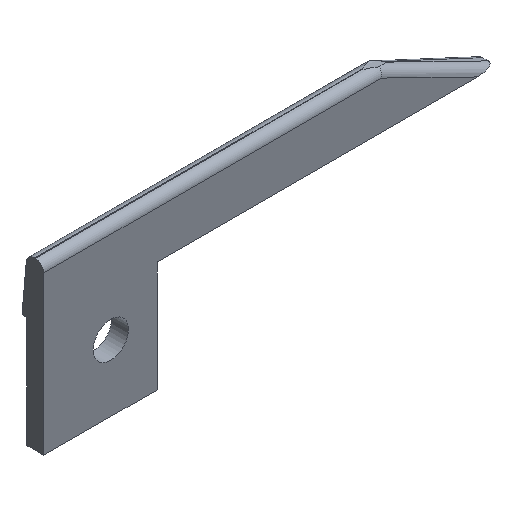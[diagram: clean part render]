
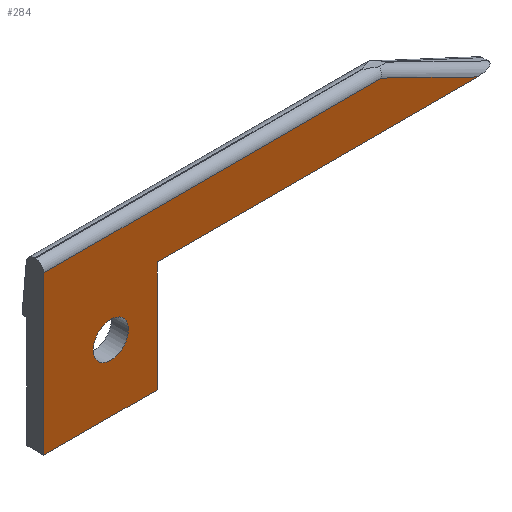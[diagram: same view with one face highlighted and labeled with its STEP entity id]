
A CAD part, isometric view. The second image highlights one B-rep face of the part: STEP entity #284.
In plain terms, the highlighted planar face has unit normal (0, -1, 0).
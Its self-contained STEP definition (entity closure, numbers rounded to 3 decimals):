
#24=FACE_BOUND('',#57,.T.);
#29=PLANE('',#319);
#40=FACE_OUTER_BOUND('',#56,.T.);
#56=EDGE_LOOP('',(#224,#225,#226,#227,#228,#229));
#57=EDGE_LOOP('',(#230));
#67=LINE('',#420,#94);
#71=LINE('',#428,#98);
#77=LINE('',#449,#104);
#81=LINE('',#458,#108);
#82=LINE('',#461,#109);
#83=LINE('',#462,#110);
#94=VECTOR('',#344,10.);
#98=VECTOR('',#350,10.);
#104=VECTOR('',#364,10.);
#108=VECTOR('',#372,10.);
#109=VECTOR('',#375,10.);
#110=VECTOR('',#376,10.);
#122=CIRCLE('',#310,1.25);
#127=VERTEX_POINT('',#414);
#128=VERTEX_POINT('',#418);
#129=VERTEX_POINT('',#419);
#132=VERTEX_POINT('',#427);
#135=VERTEX_POINT('',#437);
#139=VERTEX_POINT('',#447);
#143=VERTEX_POINT('',#460);
#155=EDGE_CURVE('',#127,#127,#122,.T.);
#156=EDGE_CURVE('',#128,#129,#67,.T.);
#160=EDGE_CURVE('',#129,#132,#71,.T.);
#169=EDGE_CURVE('',#139,#135,#77,.T.);
#174=EDGE_CURVE('',#135,#132,#81,.T.);
#175=EDGE_CURVE('',#143,#139,#82,.T.);
#176=EDGE_CURVE('',#128,#143,#83,.T.);
#224=ORIENTED_EDGE('',*,*,#169,.F.);
#225=ORIENTED_EDGE('',*,*,#175,.F.);
#226=ORIENTED_EDGE('',*,*,#176,.F.);
#227=ORIENTED_EDGE('',*,*,#156,.T.);
#228=ORIENTED_EDGE('',*,*,#160,.T.);
#229=ORIENTED_EDGE('',*,*,#174,.F.);
#230=ORIENTED_EDGE('',*,*,#155,.T.);
#284=ADVANCED_FACE('',(#40,#24),#29,.F.);
#310=AXIS2_PLACEMENT_3D('',#416,#340,#341);
#319=AXIS2_PLACEMENT_3D('',#459,#373,#374);
#340=DIRECTION('center_axis',(0.,1.,0.));
#341=DIRECTION('ref_axis',(0.,0.,1.));
#344=DIRECTION('',(1.,0.,0.));
#350=DIRECTION('',(0.,0.,1.));
#364=DIRECTION('',(0.898,0.,-0.44));
#372=DIRECTION('',(-1.,0.,0.));
#373=DIRECTION('center_axis',(0.,1.,0.));
#374=DIRECTION('ref_axis',(1.,0.,0.));
#375=DIRECTION('',(1.,0.,0.));
#376=DIRECTION('',(0.,0.,1.));
#414=CARTESIAN_POINT('',(4.73,0.,3.45));
#416=CARTESIAN_POINT('Origin',(4.73,0.,4.7));
#418=CARTESIAN_POINT('',(0.,0.,0.));
#419=CARTESIAN_POINT('',(8.,0.,0.));
#420=CARTESIAN_POINT('',(0.,0.,0.));
#427=CARTESIAN_POINT('',(8.,0.,7.83));
#428=CARTESIAN_POINT('',(8.,0.,0.));
#437=CARTESIAN_POINT('',(30.636,0.,7.83));
#447=CARTESIAN_POINT('',(23.861,0.,11.15));
#449=CARTESIAN_POINT('',(21.671,0.,12.223));
#458=CARTESIAN_POINT('',(16.,0.,7.83));
#459=CARTESIAN_POINT('Origin',(16.,0.,5.875));
#460=CARTESIAN_POINT('',(0.,0.,11.15));
#461=CARTESIAN_POINT('',(8.,0.,11.15));
#462=CARTESIAN_POINT('',(0.,0.,0.));
